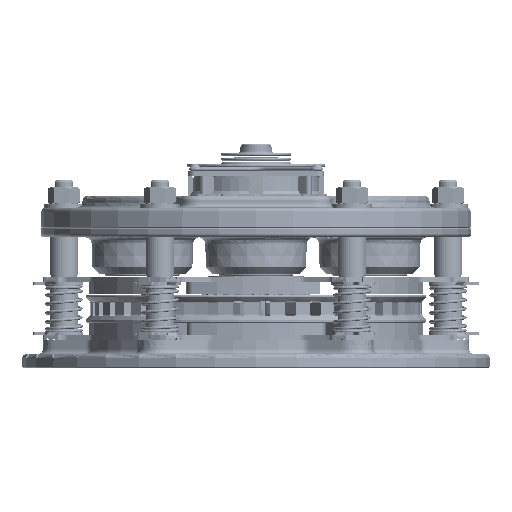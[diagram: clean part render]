
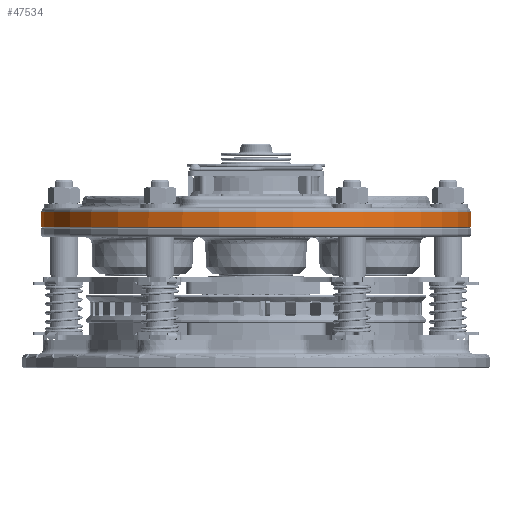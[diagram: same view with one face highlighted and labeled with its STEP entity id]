
A CAD part, front view. The second image highlights one B-rep face of the part: STEP entity #47534.
In plain terms, the highlighted conical face has half-angle 2 degrees and reference radius 146.05 mm.
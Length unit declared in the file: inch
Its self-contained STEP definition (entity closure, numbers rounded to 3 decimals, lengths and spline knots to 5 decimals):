
#5840 = DIRECTION ( 'NONE',  ( 1., 0., 0. ) ) ;
#7508 = CARTESIAN_POINT ( 'NONE',  ( 0., 0., 3.76899 ) ) ;
#9558 = CONICAL_SURFACE ( 'NONE', #158939, 5.75, 0.035 ) ;
#10812 = ORIENTED_EDGE ( 'NONE', *, *, #157581, .T. ) ;
#11199 = DIRECTION ( 'NONE',  ( 1., 0., 0. ) ) ;
#13577 = CIRCLE ( 'NONE', #133646, 5.74602 ) ;
#15871 = EDGE_LOOP ( 'NONE', ( #10812, #44227, #111661, #125537 ) ) ;
#24168 = VERTEX_POINT ( 'NONE', #69687 ) ;
#26084 = DIRECTION ( 'NONE',  ( 0., 0., -1. ) ) ;
#33159 = CIRCLE ( 'NONE', #145306, 5.73239 ) ;
#36978 = VERTEX_POINT ( 'NONE', #131066 ) ;
#44227 = ORIENTED_EDGE ( 'NONE', *, *, #71827, .T. ) ;
#45836 = CARTESIAN_POINT ( 'NONE',  ( -5.73239, 0., 4.15936 ) ) ;
#47534 = ADVANCED_FACE ( 'NONE', ( #60349 ), #9558, .T. ) ;
#55874 = DIRECTION ( 'NONE',  ( 0., 0., 1. ) ) ;
#57656 = CARTESIAN_POINT ( 'NONE',  ( -5.75, 0., 3.655 ) ) ;
#60349 = FACE_OUTER_BOUND ( 'NONE', #15871, .T. ) ;
#61167 = VERTEX_POINT ( 'NONE', #117053 ) ;
#66069 = DIRECTION ( 'NONE',  ( -1., 0., 0. ) ) ;
#69687 = CARTESIAN_POINT ( 'NONE',  ( 5.74602, 0., 3.76899 ) ) ;
#71827 = EDGE_CURVE ( 'NONE', #149312, #36978, #121225, .T. ) ;
#85849 = LINE ( 'NONE', #164508, #140064 ) ;
#105376 = CARTESIAN_POINT ( 'NONE',  ( 0., 0., 4.15936 ) ) ;
#108615 = DIRECTION ( 'NONE',  ( -0.035, 0., -0.999 ) ) ;
#111661 = ORIENTED_EDGE ( 'NONE', *, *, #127856, .T. ) ;
#115548 = EDGE_CURVE ( 'NONE', #61167, #24168, #85849, .T. ) ;
#117053 = CARTESIAN_POINT ( 'NONE',  ( 5.73239, 0., 4.15936 ) ) ;
#121225 = LINE ( 'NONE', #57656, #156603 ) ;
#125537 = ORIENTED_EDGE ( 'NONE', *, *, #115548, .F. ) ;
#127214 = CARTESIAN_POINT ( 'NONE',  ( 0., 0., 3.655 ) ) ;
#127856 = EDGE_CURVE ( 'NONE', #36978, #24168, #13577, .T. ) ;
#128030 = DIRECTION ( 'NONE',  ( 0., 0., -1. ) ) ;
#131066 = CARTESIAN_POINT ( 'NONE',  ( -5.74602, 0., 3.76899 ) ) ;
#133646 = AXIS2_PLACEMENT_3D ( 'NONE', #7508, #55874, #5840 ) ;
#139391 = DIRECTION ( 'NONE',  ( 0.035, 0., -0.999 ) ) ;
#140064 = VECTOR ( 'NONE', #139391, 39.37008 ) ;
#145306 = AXIS2_PLACEMENT_3D ( 'NONE', #105376, #128030, #66069 ) ;
#149312 = VERTEX_POINT ( 'NONE', #45836 ) ;
#156603 = VECTOR ( 'NONE', #108615, 39.37008 ) ;
#157581 = EDGE_CURVE ( 'NONE', #61167, #149312, #33159, .T. ) ;
#158939 = AXIS2_PLACEMENT_3D ( 'NONE', #127214, #26084, #11199 ) ;
#164508 = CARTESIAN_POINT ( 'NONE',  ( 5.75, 0., 3.655 ) ) ;
